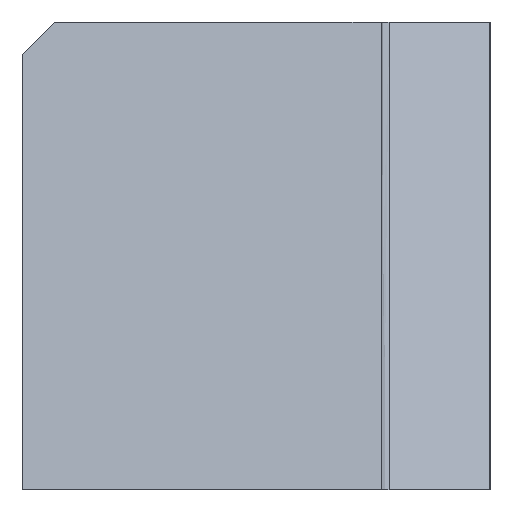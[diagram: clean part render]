
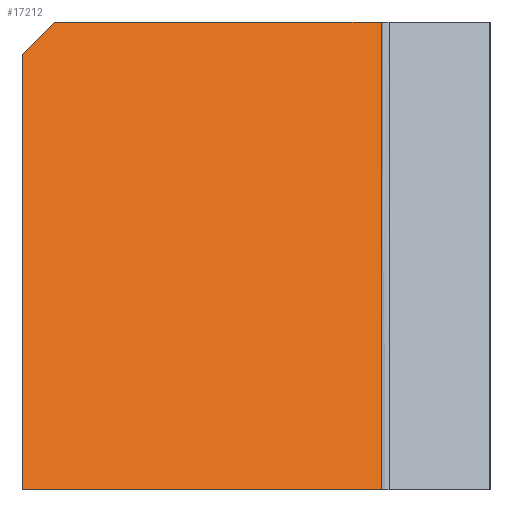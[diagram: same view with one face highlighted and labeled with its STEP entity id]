
A CAD part, left-side view. The second image highlights one B-rep face of the part: STEP entity #17212.
In plain terms, the highlighted planar face has unit normal (-0.943, 0, 0.334).
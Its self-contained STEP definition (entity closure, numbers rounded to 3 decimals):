
#2323=ORIENTED_EDGE('',*,*,#7553,.F.);
#2324=ORIENTED_EDGE('',*,*,#7554,.T.);
#2325=ORIENTED_EDGE('',*,*,#6232,.F.);
#2326=ORIENTED_EDGE('',*,*,#7555,.F.);
#2327=ORIENTED_EDGE('',*,*,#6950,.F.);
#6232=EDGE_CURVE('',#8847,#8848,#10564,.T.);
#6950=EDGE_CURVE('',#9564,#9566,#11049,.T.);
#7553=EDGE_CURVE('',#10168,#9564,#11452,.T.);
#7554=EDGE_CURVE('',#10168,#8848,#11453,.T.);
#7555=EDGE_CURVE('',#9566,#8847,#11454,.T.);
#8847=VERTEX_POINT('',#24194);
#8848=VERTEX_POINT('',#24195);
#9564=VERTEX_POINT('',#26177);
#9566=VERTEX_POINT('',#26180);
#10168=VERTEX_POINT('',#27386);
#10564=LINE('',#24193,#12613);
#11049=LINE('',#26179,#13098);
#11452=LINE('',#27385,#13501);
#11453=LINE('',#27387,#13502);
#11454=LINE('',#27388,#13503);
#12613=VECTOR('',#19320,1000.);
#13098=VECTOR('',#20207,1000.);
#13501=VECTOR('',#21012,1000.);
#13502=VECTOR('',#21013,1000.);
#13503=VECTOR('',#21014,1000.);
#14605=EDGE_LOOP('',(#2323,#2324,#2325,#2326,#2327));
#15604=FACE_BOUND('',#14605,.T.);
#16562=PLANE('',#18560);
#17212=ADVANCED_FACE('',(#15604),#16562,.T.);
#18560=AXIS2_PLACEMENT_3D('',#27384,#21010,#21011);
#19320=DIRECTION('',(0.,1.,0.));
#20207=DIRECTION('',(0.,-1.,0.));
#21010=DIRECTION('',(-0.942,0.,0.334));
#21011=DIRECTION('',(0.,1.,0.));
#21012=DIRECTION('',(0.243,-0.686,0.686));
#21013=DIRECTION('',(-0.334,0.,-0.942));
#21014=DIRECTION('',(-0.334,0.,-0.942));
#24193=CARTESIAN_POINT('',(-10.286,0.,-29.));
#24194=CARTESIAN_POINT('',(-10.286,-22.25,-29.));
#24195=CARTESIAN_POINT('',(-10.286,0.,-29.));
#26177=CARTESIAN_POINT('',(0.,-2.,0.));
#26179=CARTESIAN_POINT('',(0.,0.,0.));
#26180=CARTESIAN_POINT('',(0.,-22.25,0.));
#27384=CARTESIAN_POINT('',(0.,-22.25,0.));
#27385=CARTESIAN_POINT('',(1.596,-6.501,4.501));
#27386=CARTESIAN_POINT('',(-0.709,0.,-2.));
#27387=CARTESIAN_POINT('',(0.,0.,0.));
#27388=CARTESIAN_POINT('',(0.,-22.25,0.));
